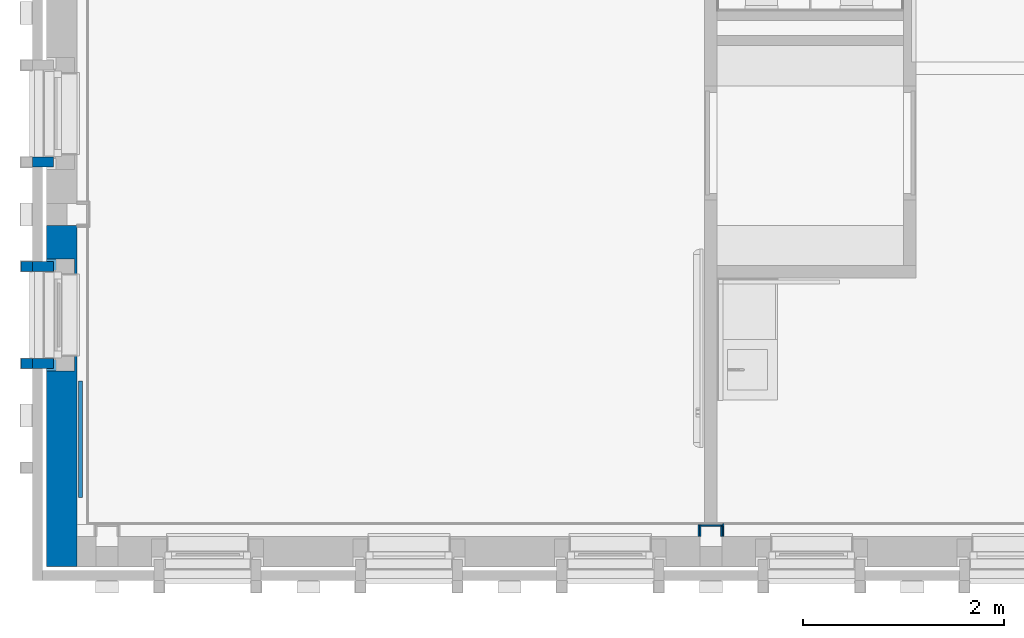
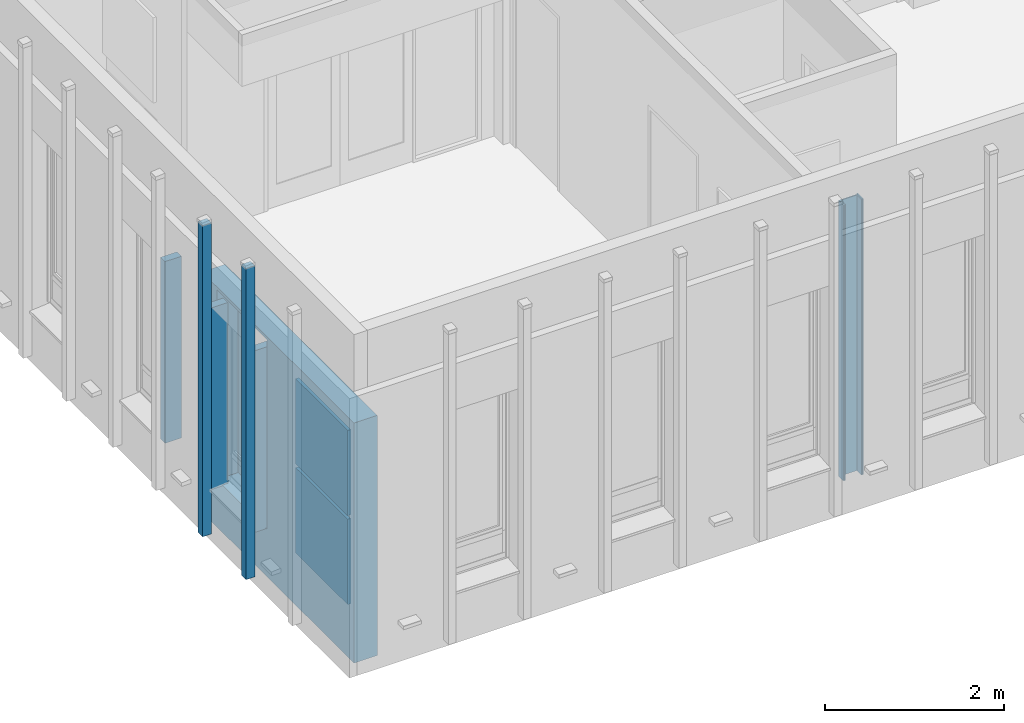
# One storey, part 26 of 118: 13 walls, 11 openings.
"""IFC2X3 building model written with IfcOpenShell, lengths in millimetres."""

from ifc_helpers import new_model, entity, si_unit, converted_unit, derived_unit, direction, frame, frame_2d, origin, place, context, subcontext, project, spatial, rectangle, extrude, faceted_brep, material, layer, layer_set, layer_usage, type_object, element, save


model = new_model("IFC2X3")

# Units and contexts
model_context = context("Model", 3, precision=0.01, world=origin(), true_north=direction((6.123031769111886e-17, 1.0)))
plan_context = context("Plan", 3, precision=0.01, world=origin(), true_north=direction((6.123031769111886e-17, 1.0)))
body_context = subcontext(model_context, "Body", "Model", "MODEL_VIEW")
ifc_project = project(units=[si_unit("LENGTHUNIT", "METRE", prefix="MILLI"), si_unit("AREAUNIT", "SQUARE_METRE"), si_unit("VOLUMEUNIT", "CUBIC_METRE"), converted_unit("PLANEANGLEUNIT", "DEGREE", entity("IfcRatioMeasure", 0.017453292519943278), si_unit("PLANEANGLEUNIT", "RADIAN"), dimensions=[0, 0, 0, 0, 0, 0, 0]), si_unit("MASSUNIT", "GRAM", prefix="KILO"), derived_unit("MASSDENSITYUNIT", [(si_unit("MASSUNIT", "GRAM", prefix="KILO"), 1), (si_unit("LENGTHUNIT", "METRE"), -3)]), derived_unit("IONCONCENTRATIONUNIT", [(si_unit("MASSUNIT", "GRAM", prefix="KILO"), 1), (si_unit("LENGTHUNIT", "METRE"), -3)]), derived_unit("MOMENTOFINERTIAUNIT", [(si_unit("LENGTHUNIT", "METRE"), 4)]), si_unit("TIMEUNIT", "SECOND"), si_unit("FREQUENCYUNIT", "HERTZ"), si_unit("THERMODYNAMICTEMPERATUREUNIT", "DEGREE_CELSIUS"), derived_unit("THERMALTRANSMITTANCEUNIT", [(si_unit("MASSUNIT", "GRAM", prefix="KILO"), 1), (si_unit("THERMODYNAMICTEMPERATUREUNIT", "KELVIN"), -1), (si_unit("TIMEUNIT", "SECOND"), -3)]), derived_unit("THERMALCONDUCTANCEUNIT", [(si_unit("MASSUNIT", "GRAM", prefix="KILO"), 1), (si_unit("THERMODYNAMICTEMPERATUREUNIT", "KELVIN"), -1), (si_unit("TIMEUNIT", "SECOND"), -3), (si_unit("LENGTHUNIT", "METRE"), 1)]), derived_unit("VOLUMETRICFLOWRATEUNIT", [(si_unit("LENGTHUNIT", "METRE"), 3), (si_unit("TIMEUNIT", "SECOND"), -1)]), derived_unit("MASSFLOWRATEUNIT", [(si_unit("MASSUNIT", "GRAM", prefix="KILO"), 1), (si_unit("TIMEUNIT", "SECOND"), -1)]), derived_unit("ROTATIONALFREQUENCYUNIT", [(si_unit("TIMEUNIT", "SECOND"), -1)]), si_unit("ELECTRICCURRENTUNIT", "AMPERE"), si_unit("ELECTRICVOLTAGEUNIT", "VOLT"), si_unit("POWERUNIT", "WATT"), si_unit("FORCEUNIT", "NEWTON", prefix="KILO"), si_unit("ILLUMINANCEUNIT", "LUX"), si_unit("LUMINOUSFLUXUNIT", "LUMEN"), si_unit("LUMINOUSINTENSITYUNIT", "CANDELA"), derived_unit("USERDEFINED", [(si_unit("MASSUNIT", "GRAM", prefix="KILO"), -1), (si_unit("LENGTHUNIT", "METRE"), -2), (si_unit("TIMEUNIT", "SECOND"), 3), (si_unit("LUMINOUSFLUXUNIT", "LUMEN"), 1)]), derived_unit("USERDEFINED", [(si_unit("MASSUNIT", "GRAM", prefix="KILO"), 1), (si_unit("TIMEUNIT", "SECOND"), -3), (si_unit("LENGTHUNIT", "METRE"), 3), (si_unit("ELECTRICCURRENTUNIT", "AMPERE"), -2)]), derived_unit("SOUNDPOWERUNIT", [(si_unit("MASSUNIT", "GRAM", prefix="KILO"), 1), (si_unit("TIMEUNIT", "SECOND"), -3), (si_unit("LENGTHUNIT", "METRE"), 2)]), derived_unit("SOUNDPRESSUREUNIT", [(si_unit("MASSUNIT", "GRAM", prefix="KILO"), 1), (si_unit("LENGTHUNIT", "METRE"), -1), (si_unit("TIMEUNIT", "SECOND"), -2)]), derived_unit("LINEARVELOCITYUNIT", [(si_unit("LENGTHUNIT", "METRE"), 1), (si_unit("TIMEUNIT", "SECOND"), -1)]), si_unit("PRESSUREUNIT", "PASCAL"), derived_unit("USERDEFINED", [(si_unit("MASSUNIT", "GRAM", prefix="KILO"), 1), (si_unit("LENGTHUNIT", "METRE"), -2), (si_unit("TIMEUNIT", "SECOND"), -2)]), derived_unit("LINEARFORCEUNIT", [(si_unit("MASSUNIT", "GRAM", prefix="KILO"), 1), (si_unit("TIMEUNIT", "SECOND"), -2)]), derived_unit("PLANARFORCEUNIT", [(si_unit("MASSUNIT", "GRAM", prefix="KILO"), 1), (si_unit("LENGTHUNIT", "METRE"), -1), (si_unit("TIMEUNIT", "SECOND"), -2)]), derived_unit("SPECIFICHEATCAPACITYUNIT", [(si_unit("THERMODYNAMICTEMPERATUREUNIT", "KELVIN"), -1), (si_unit("LENGTHUNIT", "METRE"), 2), (si_unit("TIMEUNIT", "SECOND"), -2)]), derived_unit("HEATINGVALUEUNIT", [(si_unit("LENGTHUNIT", "METRE"), 2), (si_unit("TIMEUNIT", "SECOND"), -2)]), derived_unit("VAPORPERMEABILITYUNIT", [(si_unit("LENGTHUNIT", "METRE"), -1), (si_unit("TIMEUNIT", "SECOND"), 1)]), derived_unit("DYNAMICVISCOSITYUNIT", [(si_unit("MASSUNIT", "GRAM", prefix="KILO"), 1), (si_unit("TIMEUNIT", "SECOND"), -1), (si_unit("LENGTHUNIT", "METRE"), -1)]), derived_unit("THERMALEXPANSIONCOEFFICIENTUNIT", [(si_unit("THERMODYNAMICTEMPERATUREUNIT", "KELVIN"), -1)]), derived_unit("MODULUSOFELASTICITYUNIT", [(si_unit("MASSUNIT", "GRAM", prefix="KILO"), 1), (si_unit("LENGTHUNIT", "METRE"), -1), (si_unit("TIMEUNIT", "SECOND"), -2)]), derived_unit("ISOTHERMALMOISTURECAPACITYUNIT", [(si_unit("LENGTHUNIT", "METRE"), 3), (si_unit("MASSUNIT", "GRAM", prefix="KILO"), -1)]), derived_unit("MOISTUREDIFFUSIVITYUNIT", [(si_unit("TIMEUNIT", "SECOND"), -1), (si_unit("LENGTHUNIT", "METRE"), 2)])], contexts=[model_context, plan_context])

# Site, building, storey
site_placement = place(None, origin())
site = spatial("IfcSite", under=ifc_project, at=site_placement, Name="Locatie", CompositionType="ELEMENT")
building_placement = place(site_placement, origin())
building = spatial("IfcBuilding", under=site, at=building_placement, Name="Bouwwerk", CompositionType="ELEMENT")
storey_placement = place(building_placement, frame((0.0, 0.0, 7800.0)))
storey = spatial("IfcBuildingStorey", under=building, at=storey_placement, Name="02 tweede verdieping", CompositionType="ELEMENT", Elevation=7800.000000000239)

# Wall, openings
ifc_material_1 = material(Name="n7_isolatie_glaswol")
ifc_layer_1 = layer(ifc_material_1, 30.0)
ifc_layer_2 = layer(ifc_material_1, 245.0)
ifc_material_2 = material(Name="i4_multiplex")
ifc_layer_3 = layer(ifc_material_2, 12.0)
ifc_material_3 = material(Name="f7_gipsvezel")
ifc_layer_4 = layer(ifc_material_3, 13.000000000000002)
ifc_layer_set_1 = layer_set([ifc_layer_1, ifc_layer_2, ifc_layer_3, ifc_layer_4], Name="Basic Wall:NLRS_22_WA_HSB bispouw 30-245-12-13 glaswol_gen_ISR")
ifc_layer_usage_1 = layer_usage(ifc_layer_set_1, "AXIS2", "NEGATIVE", 150.0)
wall_type_1 = type_object("IfcWallType", Name="Basic Wall:NLRS_22_WA_HSB bispouw 30-245-12-13 glaswol_gen_ISR", PredefinedType="STANDARD", material=ifc_layer_set_1)
wall_1_placement = place(storey_placement, frame((9850.0, 9700.0, -30.0), z_axis=(0.0, 0.0, 1.0), x_axis=(0.0, 1.0, 0.0)))
wall_1 = element("IfcWallStandardCase", 1, at=wall_1_placement, inside=storey, type_object=wall_type_1, material=ifc_layer_usage_1, Name="Basic Wall:NLRS_22_WA_HSB bispouw 30-245-12-13 glaswol_gen_ISR", ObjectType="Basic Wall:NLRS_22_WA_HSB bispouw 30-245-12-13 glaswol_gen_ISR", context=body_context, shape_type="SweptSolid", body=[
    extrude(rectangle(XDim=3389.9999999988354, YDim=300.0000000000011, at=frame_2d((1694.9999999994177, 0.0), x_axis=(-1.0, 0.0))), origin(), (0.0, 0.0, 1.0), 3266.0000000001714),
])
opening_1_placement = place(wall_1_placement, frame((3944.0, 290.0, 633.0)))
element("IfcOpeningElement", 2, at=opening_1_placement, cuts=wall_1, Name="Basic Wall:NLRS_22_WA_HSB bispouw 30-245-12-13 glaswol_gen_ISR", ObjectType="Opening", context=body_context, shape_type="Brep", body=[
    faceted_brep([(1088.0, -100.0, 2472.0), (1009.0, -100.0, 2472.0), (1009.0, -100.0, 42.0), (103.0, -100.0, 42.0), (103.0, -100.0, 2472.0), (24.0, -100.0, 2472.0), (24.0, -100.0, 0.0), (1088.0, -100.0, 0.0), (24.0, 0.0, 2472.0), (1088.0, 0.0, 2472.0), (1088.0, 0.0, 0.0), (24.0, 0.0, 0.0), (0.0, -415.0, 2594.0), (0.0, -415.0, 11.0), (1112.0, -415.0, 11.0), (1112.0, -415.0, 2594.0), (148.0, -415.0, 2443.0), (964.0, -415.0, 2443.0), (964.0, -415.0, 87.0), (148.0, -415.0, 87.0), (0.0, -140.0, 2594.0), (1112.0, -140.0, 2594.0), (1112.0, -140.0, 11.0), (0.0, -140.0, 11.0), (103.0, -140.0, 42.0), (1009.0, -140.0, 42.0), (1009.0, -140.0, 2508.0), (103.0, -140.0, 2508.0), (1009.0, -100.0, 2508.0), (103.0, -100.0, 2508.0), (148.0, -615.0, 2443.0), (148.0, -615.0, 87.0), (964.0, -615.0, 87.0), (964.0, -615.0, 2443.0)], [[[0, 1, 2, 3, 4, 5, 6, 7]], [[8, 9, 10, 11]], [[5, 8, 11, 6]], [[6, 11, 10, 7]], [[7, 10, 9, 0]], [[8, 5, 4, 1, 0, 9]], [[12, 13, 14, 15], [16, 17, 18, 19]], [[20, 21, 22, 23], [24, 25, 26, 27]], [[12, 20, 23, 13]], [[13, 23, 22, 14]], [[14, 22, 21, 15]], [[15, 21, 20, 12]], [[28, 1, 4, 29]], [[24, 27, 29, 4, 3]], [[3, 2, 25, 24]], [[2, 1, 28, 26, 25]], [[29, 27, 26, 28]], [[30, 31, 32, 33]], [[30, 16, 19, 31]], [[31, 19, 18, 32]], [[32, 18, 17, 33]], [[33, 17, 16, 30]]]),
])
opening_2_placement = place(wall_1_placement, frame((5944.0, 290.0, 633.0)))
element("IfcOpeningElement", 3, at=opening_2_placement, cuts=wall_1, Name="Basic Wall:NLRS_22_WA_HSB bispouw 30-245-12-13 glaswol_gen_ISR", ObjectType="Opening", context=body_context, shape_type="Brep", body=[
    faceted_brep([(1088.0, -100.0, 2472.0), (1009.0, -100.0, 2472.0), (1009.0, -100.0, 42.0), (103.0, -100.0, 42.0), (103.0, -100.0, 2472.0), (24.0, -100.0, 2472.0), (24.0, -100.0, 0.0), (1088.0, -100.0, 0.0), (24.0, 0.0, 2472.0), (1088.0, 0.0, 2472.0), (1088.0, 0.0, 0.0), (24.0, 0.0, 0.0), (0.0, -415.0, 2594.0), (0.0, -415.0, 11.0), (1112.0, -415.0, 11.0), (1112.0, -415.0, 2594.0), (148.0, -415.0, 2443.0), (964.0, -415.0, 2443.0), (964.0, -415.0, 87.0), (148.0, -415.0, 87.0), (0.0, -140.0, 2594.0), (1112.0, -140.0, 2594.0), (1112.0, -140.0, 11.0), (0.0, -140.0, 11.0), (103.0, -140.0, 42.0), (1009.0, -140.0, 42.0), (1009.0, -140.0, 2508.0), (103.0, -140.0, 2508.0), (1009.0, -100.0, 2508.0), (103.0, -100.0, 2508.0), (148.0, -615.0, 2443.0), (148.0, -615.0, 87.0), (964.0, -615.0, 87.0), (964.0, -615.0, 2443.0)], [[[0, 1, 2, 3, 4, 5, 6, 7]], [[8, 9, 10, 11]], [[5, 8, 11, 6]], [[6, 11, 10, 7]], [[7, 10, 9, 0]], [[8, 5, 4, 1, 0, 9]], [[12, 13, 14, 15], [16, 17, 18, 19]], [[20, 21, 22, 23], [24, 25, 26, 27]], [[12, 20, 23, 13]], [[13, 23, 22, 14]], [[14, 22, 21, 15]], [[15, 21, 20, 12]], [[28, 1, 4, 29]], [[24, 27, 29, 4, 3]], [[3, 2, 25, 24]], [[2, 1, 28, 26, 25]], [[29, 27, 26, 28]], [[30, 31, 32, 33]], [[30, 16, 19, 31]], [[31, 19, 18, 32]], [[32, 18, 17, 33]], [[33, 17, 16, 30]]]),
])
opening_3_placement = place(wall_1_placement, frame((7944.0, 290.0, 633.0)))
element("IfcOpeningElement", 4, at=opening_3_placement, cuts=wall_1, Name="Basic Wall:NLRS_22_WA_HSB bispouw 30-245-12-13 glaswol_gen_ISR", ObjectType="Opening", context=body_context, shape_type="Brep", body=[
    faceted_brep([(1088.0, -100.0, 2472.0), (1009.0, -100.0, 2472.0), (1009.0, -100.0, 42.0), (103.0, -100.0, 42.0), (103.0, -100.0, 2472.0), (24.0, -100.0, 2472.0), (24.0, -100.0, 0.0), (1088.0, -100.0, 0.0), (24.0, 0.0, 2472.0), (1088.0, 0.0, 2472.0), (1088.0, 0.0, 0.0), (24.0, 0.0, 0.0), (0.0, -415.0, 2594.0), (0.0, -415.0, 11.0), (1112.0, -415.0, 11.0), (1112.0, -415.0, 2594.0), (148.0, -415.0, 2443.0), (964.0, -415.0, 2443.0), (964.0, -415.0, 87.0), (148.0, -415.0, 87.0), (0.0, -140.0, 2594.0), (1112.0, -140.0, 2594.0), (1112.0, -140.0, 11.0), (0.0, -140.0, 11.0), (103.0, -140.0, 42.0), (1009.0, -140.0, 42.0), (1009.0, -140.0, 2508.0), (103.0, -140.0, 2508.0), (1009.0, -100.0, 2508.0), (103.0, -100.0, 2508.0), (148.0, -615.0, 2443.0), (148.0, -615.0, 87.0), (964.0, -615.0, 87.0), (964.0, -615.0, 2443.0)], [[[0, 1, 2, 3, 4, 5, 6, 7]], [[8, 9, 10, 11]], [[5, 8, 11, 6]], [[6, 11, 10, 7]], [[7, 10, 9, 0]], [[8, 5, 4, 1, 0, 9]], [[12, 13, 14, 15], [16, 17, 18, 19]], [[20, 21, 22, 23], [24, 25, 26, 27]], [[12, 20, 23, 13]], [[13, 23, 22, 14]], [[14, 22, 21, 15]], [[15, 21, 20, 12]], [[28, 1, 4, 29]], [[24, 27, 29, 4, 3]], [[3, 2, 25, 24]], [[2, 1, 28, 26, 25]], [[29, 27, 26, 28]], [[30, 31, 32, 33]], [[30, 16, 19, 31]], [[31, 19, 18, 32]], [[32, 18, 17, 33]], [[33, 17, 16, 30]]]),
])
opening_4_placement = place(wall_1_placement, frame((9944.0, 290.0, 633.0)))
element("IfcOpeningElement", 5, at=opening_4_placement, cuts=wall_1, Name="Basic Wall:NLRS_22_WA_HSB bispouw 30-245-12-13 glaswol_gen_ISR", ObjectType="Opening", context=body_context, shape_type="Brep", body=[
    faceted_brep([(24.0, -100.0, 0.0), (24.0, 0.0, 0.0), (1088.0, 0.0, 0.0), (1088.0, -100.0, 0.0), (0.0, -415.0, 11.0), (0.0, -140.0, 11.0), (1112.0, -140.0, 11.0), (1112.0, -415.0, 11.0), (103.0, -100.0, 42.0), (1009.0, -100.0, 42.0), (1009.0, -140.0, 42.0), (103.0, -140.0, 42.0), (1088.0, -100.0, 2472.0), (1009.0, -100.0, 2472.0), (103.0, -100.0, 2472.0), (24.0, -100.0, 2472.0), (24.0, 0.0, 2472.0), (1088.0, 0.0, 2472.0), (0.0, -415.0, 2594.0), (1112.0, -415.0, 2594.0), (148.0, -415.0, 2443.0), (964.0, -415.0, 2443.0), (964.0, -415.0, 87.0), (148.0, -415.0, 87.0), (0.0, -140.0, 2594.0), (1112.0, -140.0, 2594.0), (1009.0, -140.0, 2508.0), (103.0, -140.0, 2508.0), (1009.0, -100.0, 2508.0), (103.0, -100.0, 2508.0), (148.0, -615.0, 2443.0), (148.0, -615.0, 87.0), (964.0, -615.0, 87.0), (964.0, -615.0, 2443.0)], [[[0, 1, 2, 3]], [[4, 5, 6, 7]], [[8, 9, 10, 11]], [[12, 13, 9, 8, 14, 15, 0, 3]], [[16, 17, 2, 1]], [[15, 16, 1, 0]], [[3, 2, 17, 12]], [[16, 15, 14, 13, 12, 17]], [[18, 4, 7, 19], [20, 21, 22, 23]], [[24, 25, 6, 5], [11, 10, 26, 27]], [[18, 24, 5, 4]], [[7, 6, 25, 19]], [[19, 25, 24, 18]], [[28, 13, 14, 29]], [[11, 27, 29, 14, 8]], [[9, 13, 28, 26, 10]], [[29, 27, 26, 28]], [[30, 31, 32, 33]], [[30, 20, 23, 31]], [[31, 23, 22, 32]], [[32, 22, 21, 33]], [[33, 21, 20, 30]]]),
])
opening_5_placement = place(wall_1_placement, frame((11944.0, 290.0, 633.0)))
element("IfcOpeningElement", 6, at=opening_5_placement, cuts=wall_1, Name="Basic Wall:NLRS_22_WA_HSB bispouw 30-245-12-13 glaswol_gen_ISR", ObjectType="Opening", context=body_context, shape_type="Brep", body=[
    faceted_brep([(24.0, -100.0, 0.0), (24.0, 0.0, 0.0), (1088.0, 0.0, 0.0), (1088.0, -100.0, 0.0), (0.0, -415.0, 11.0), (0.0, -140.0, 11.0), (1112.0, -140.0, 11.0), (1112.0, -415.0, 11.0), (103.0, -100.0, 42.0), (1009.0, -100.0, 42.0), (1009.0, -140.0, 42.0), (103.0, -140.0, 42.0), (1088.0, -100.0, 2472.0), (1009.0, -100.0, 2472.0), (103.0, -100.0, 2472.0), (24.0, -100.0, 2472.0), (24.0, 0.0, 2472.0), (1088.0, 0.0, 2472.0), (0.0, -415.0, 2594.0), (1112.0, -415.0, 2594.0), (148.0, -415.0, 2443.0), (964.0, -415.0, 2443.0), (964.0, -415.0, 87.0), (148.0, -415.0, 87.0), (0.0, -140.0, 2594.0), (1112.0, -140.0, 2594.0), (1009.0, -140.0, 2508.0), (103.0, -140.0, 2508.0), (1009.0, -100.0, 2508.0), (103.0, -100.0, 2508.0), (148.0, -615.0, 2443.0), (148.0, -615.0, 87.0), (964.0, -615.0, 87.0), (964.0, -615.0, 2443.0)], [[[0, 1, 2, 3]], [[4, 5, 6, 7]], [[8, 9, 10, 11]], [[12, 13, 9, 8, 14, 15, 0, 3]], [[16, 17, 2, 1]], [[15, 16, 1, 0]], [[3, 2, 17, 12]], [[16, 15, 14, 13, 12, 17]], [[18, 4, 7, 19], [20, 21, 22, 23]], [[24, 25, 6, 5], [11, 10, 26, 27]], [[18, 24, 5, 4]], [[7, 6, 25, 19]], [[19, 25, 24, 18]], [[28, 13, 14, 29]], [[11, 27, 29, 14, 8]], [[9, 13, 28, 26, 10]], [[29, 27, 26, 28]], [[30, 31, 32, 33]], [[30, 20, 23, 31]], [[31, 23, 22, 32]], [[32, 22, 21, 33]], [[33, 21, 20, 30]]]),
])
opening_6_placement = place(wall_1_placement, frame((13944.0, 290.0, 633.0)))
element("IfcOpeningElement", 7, at=opening_6_placement, cuts=wall_1, Name="Basic Wall:NLRS_22_WA_HSB bispouw 30-245-12-13 glaswol_gen_ISR", ObjectType="Opening", context=body_context, shape_type="Brep", body=[
    faceted_brep([(1088.0, -100.0, 2472.0), (1009.0, -100.0, 2472.0), (1009.0, -100.0, 42.0), (103.0, -100.0, 42.0), (103.0, -100.0, 2472.0), (24.0, -100.0, 2472.0), (24.0, -100.0, 0.0), (1088.0, -100.0, 0.0), (24.0, 0.0, 2472.0), (1088.0, 0.0, 2472.0), (1088.0, 0.0, 0.0), (24.0, 0.0, 0.0), (0.0, -415.0, 2594.0), (0.0, -415.0, 11.0), (1112.0, -415.0, 11.0), (1112.0, -415.0, 2594.0), (148.0, -415.0, 2443.0), (964.0, -415.0, 2443.0), (964.0, -415.0, 87.0), (148.0, -415.0, 87.0), (0.0, -140.0, 2594.0), (1112.0, -140.0, 2594.0), (1112.0, -140.0, 11.0), (0.0, -140.0, 11.0), (103.0, -140.0, 42.0), (1009.0, -140.0, 42.0), (1009.0, -140.0, 2508.0), (103.0, -140.0, 2508.0), (1009.0, -100.0, 2508.0), (103.0, -100.0, 2508.0), (148.0, -615.0, 2443.0), (148.0, -615.0, 87.0), (964.0, -615.0, 87.0), (964.0, -615.0, 2443.0)], [[[0, 1, 2, 3, 4, 5, 6, 7]], [[8, 9, 10, 11]], [[5, 8, 11, 6]], [[6, 11, 10, 7]], [[7, 10, 9, 0]], [[8, 5, 4, 1, 0, 9]], [[12, 13, 14, 15], [16, 17, 18, 19]], [[20, 21, 22, 23], [24, 25, 26, 27]], [[12, 20, 23, 13]], [[13, 23, 22, 14]], [[14, 22, 21, 15]], [[15, 21, 20, 12]], [[28, 1, 4, 29]], [[24, 27, 29, 4, 3]], [[3, 2, 25, 24]], [[2, 1, 28, 26, 25]], [[29, 27, 26, 28]], [[30, 31, 32, 33]], [[30, 16, 19, 31]], [[31, 19, 18, 32]], [[32, 18, 17, 33]], [[33, 17, 16, 30]]]),
])
opening_7_placement = place(wall_1_placement, frame((15944.0, 290.0, 633.0)))
element("IfcOpeningElement", 8, at=opening_7_placement, cuts=wall_1, Name="Basic Wall:NLRS_22_WA_HSB bispouw 30-245-12-13 glaswol_gen_ISR", ObjectType="Opening", context=body_context, shape_type="Brep", body=[
    faceted_brep([(1088.0, -100.0, 2472.0), (1009.0, -100.0, 2472.0), (1009.0, -100.0, 42.0), (103.0, -100.0, 42.0), (103.0, -100.0, 2472.0), (24.0, -100.0, 2472.0), (24.0, -100.0, 0.0), (1088.0, -100.0, 0.0), (24.0, 0.0, 2472.0), (1088.0, 0.0, 2472.0), (1088.0, 0.0, 0.0), (24.0, 0.0, 0.0), (0.0, -415.0, 2594.0), (0.0, -415.0, 11.0), (1112.0, -415.0, 11.0), (1112.0, -415.0, 2594.0), (148.0, -415.0, 2443.0), (964.0, -415.0, 2443.0), (964.0, -415.0, 87.0), (148.0, -415.0, 87.0), (0.0, -140.0, 2594.0), (1112.0, -140.0, 2594.0), (1112.0, -140.0, 11.0), (0.0, -140.0, 11.0), (103.0, -140.0, 42.0), (1009.0, -140.0, 42.0), (1009.0, -140.0, 2508.0), (103.0, -140.0, 2508.0), (1009.0, -100.0, 2508.0), (103.0, -100.0, 2508.0), (148.0, -615.0, 2443.0), (148.0, -615.0, 87.0), (964.0, -615.0, 87.0), (964.0, -615.0, 2443.0)], [[[0, 1, 2, 3, 4, 5, 6, 7]], [[8, 9, 10, 11]], [[5, 8, 11, 6]], [[6, 11, 10, 7]], [[7, 10, 9, 0]], [[8, 5, 4, 1, 0, 9]], [[12, 13, 14, 15], [16, 17, 18, 19]], [[20, 21, 22, 23], [24, 25, 26, 27]], [[12, 20, 23, 13]], [[13, 23, 22, 14]], [[14, 22, 21, 15]], [[15, 21, 20, 12]], [[28, 1, 4, 29]], [[24, 27, 29, 4, 3]], [[3, 2, 25, 24]], [[2, 1, 28, 26, 25]], [[29, 27, 26, 28]], [[30, 31, 32, 33]], [[30, 16, 19, 31]], [[31, 19, 18, 32]], [[32, 18, 17, 33]], [[33, 17, 16, 30]]]),
])
opening_8_placement = place(wall_1_placement, frame((17944.0, 290.0, 633.0)))
element("IfcOpeningElement", 9, at=opening_8_placement, cuts=wall_1, Name="Basic Wall:NLRS_22_WA_HSB bispouw 30-245-12-13 glaswol_gen_ISR", ObjectType="Opening", context=body_context, shape_type="Brep", body=[
    faceted_brep([(1088.0, -100.0, 2472.0), (1009.0, -100.0, 2472.0), (1009.0, -100.0, 42.0), (103.0, -100.0, 42.0), (103.0, -100.0, 2472.0), (24.0, -100.0, 2472.0), (24.0, -100.0, 0.0), (1088.0, -100.0, 0.0), (24.0, 0.0, 2472.0), (1088.0, 0.0, 2472.0), (1088.0, 0.0, 0.0), (24.0, 0.0, 0.0), (0.0, -415.0, 2594.0), (0.0, -415.0, 11.0), (1112.0, -415.0, 11.0), (1112.0, -415.0, 2594.0), (148.0, -415.0, 2443.0), (964.0, -415.0, 2443.0), (964.0, -415.0, 87.0), (148.0, -415.0, 87.0), (0.0, -140.0, 2594.0), (1112.0, -140.0, 2594.0), (1112.0, -140.0, 11.0), (0.0, -140.0, 11.0), (103.0, -140.0, 42.0), (1009.0, -140.0, 42.0), (1009.0, -140.0, 2508.0), (103.0, -140.0, 2508.0), (1009.0, -100.0, 2508.0), (103.0, -100.0, 2508.0), (148.0, -615.0, 2443.0), (148.0, -615.0, 87.0), (964.0, -615.0, 87.0), (964.0, -615.0, 2443.0)], [[[0, 1, 2, 3, 4, 5, 6, 7]], [[8, 9, 10, 11]], [[5, 8, 11, 6]], [[6, 11, 10, 7]], [[7, 10, 9, 0]], [[8, 5, 4, 1, 0, 9]], [[12, 13, 14, 15], [16, 17, 18, 19]], [[20, 21, 22, 23], [24, 25, 26, 27]], [[12, 20, 23, 13]], [[13, 23, 22, 14]], [[14, 22, 21, 15]], [[15, 21, 20, 12]], [[28, 1, 4, 29]], [[24, 27, 29, 4, 3]], [[3, 2, 25, 24]], [[2, 1, 28, 26, 25]], [[29, 27, 26, 28]], [[30, 31, 32, 33]], [[30, 16, 19, 31]], [[31, 19, 18, 32]], [[32, 18, 17, 33]], [[33, 17, 16, 30]]]),
])
opening_9_placement = place(wall_1_placement, frame((19944.0, 290.0, 633.0)))
element("IfcOpeningElement", 10, at=opening_9_placement, cuts=wall_1, Name="Basic Wall:NLRS_22_WA_HSB bispouw 30-245-12-13 glaswol_gen_ISR", ObjectType="Opening", context=body_context, shape_type="Brep", body=[
    faceted_brep([(1088.0, -100.0, 2472.0), (1009.0, -100.0, 2472.0), (1009.0, -100.0, 42.0), (103.0, -100.0, 42.0), (103.0, -100.0, 2472.0), (24.0, -100.0, 2472.0), (24.0, -100.0, 0.0), (1088.0, -100.0, 0.0), (24.0, 0.0, 2472.0), (1088.0, 0.0, 2472.0), (1088.0, 0.0, 0.0), (24.0, 0.0, 0.0), (0.0, -415.0, 2594.0), (0.0, -415.0, 11.0), (1112.0, -415.0, 11.0), (1112.0, -415.0, 2594.0), (148.0, -415.0, 2443.0), (964.0, -415.0, 2443.0), (964.0, -415.0, 87.0), (148.0, -415.0, 87.0), (0.0, -140.0, 2594.0), (1112.0, -140.0, 2594.0), (1112.0, -140.0, 11.0), (0.0, -140.0, 11.0), (103.0, -140.0, 42.0), (1009.0, -140.0, 42.0), (1009.0, -140.0, 2508.0), (103.0, -140.0, 2508.0), (1009.0, -100.0, 2508.0), (103.0, -100.0, 2508.0), (148.0, -615.0, 2443.0), (148.0, -615.0, 87.0), (964.0, -615.0, 87.0), (964.0, -615.0, 2443.0)], [[[0, 1, 2, 3, 4, 5, 6, 7]], [[8, 9, 10, 11]], [[5, 8, 11, 6]], [[6, 11, 10, 7]], [[7, 10, 9, 0]], [[8, 5, 4, 1, 0, 9]], [[12, 13, 14, 15], [16, 17, 18, 19]], [[20, 21, 22, 23], [24, 25, 26, 27]], [[12, 20, 23, 13]], [[13, 23, 22, 14]], [[14, 22, 21, 15]], [[15, 21, 20, 12]], [[28, 1, 4, 29]], [[24, 27, 29, 4, 3]], [[3, 2, 25, 24]], [[2, 1, 28, 26, 25]], [[29, 27, 26, 28]], [[30, 31, 32, 33]], [[30, 16, 19, 31]], [[31, 19, 18, 32]], [[32, 18, 17, 33]], [[33, 17, 16, 30]]]),
])
opening_10_placement = place(wall_1_placement, frame((21944.0, 290.0, 633.0)))
element("IfcOpeningElement", 11, at=opening_10_placement, cuts=wall_1, Name="Basic Wall:NLRS_22_WA_HSB bispouw 30-245-12-13 glaswol_gen_ISR", ObjectType="Opening", context=body_context, shape_type="Brep", body=[
    faceted_brep([(1088.0, -100.0, 2472.0), (1009.0, -100.0, 2472.0), (1009.0, -100.0, 42.0), (103.0, -100.0, 42.0), (103.0, -100.0, 2472.0), (24.0, -100.0, 2472.0), (24.0, -100.0, 0.0), (1088.0, -100.0, 0.0), (24.0, 0.0, 2472.0), (1088.0, 0.0, 2472.0), (1088.0, 0.0, 0.0), (24.0, 0.0, 0.0), (0.0, -415.0, 2594.0), (0.0, -415.0, 11.0), (1112.0, -415.0, 11.0), (1112.0, -415.0, 2594.0), (148.0, -415.0, 2443.0), (964.0, -415.0, 2443.0), (964.0, -415.0, 87.0), (148.0, -415.0, 87.0), (0.0, -140.0, 2594.0), (1112.0, -140.0, 2594.0), (1112.0, -140.0, 11.0), (0.0, -140.0, 11.0), (103.0, -140.0, 42.0), (1009.0, -140.0, 42.0), (1009.0, -140.0, 2508.0), (103.0, -140.0, 2508.0), (1009.0, -100.0, 2508.0), (103.0, -100.0, 2508.0), (148.0, -615.0, 2443.0), (148.0, -615.0, 87.0), (964.0, -615.0, 87.0), (964.0, -615.0, 2443.0)], [[[0, 1, 2, 3, 4, 5, 6, 7]], [[8, 9, 10, 11]], [[5, 8, 11, 6]], [[6, 11, 10, 7]], [[7, 10, 9, 0]], [[8, 5, 4, 1, 0, 9]], [[12, 13, 14, 15], [16, 17, 18, 19]], [[20, 21, 22, 23], [24, 25, 26, 27]], [[12, 20, 23, 13]], [[13, 23, 22, 14]], [[14, 22, 21, 15]], [[15, 21, 20, 12]], [[28, 1, 4, 29]], [[24, 27, 29, 4, 3]], [[3, 2, 25, 24]], [[2, 1, 28, 26, 25]], [[29, 27, 26, 28]], [[30, 31, 32, 33]], [[30, 16, 19, 31]], [[31, 19, 18, 32]], [[32, 18, 17, 33]], [[33, 17, 16, 30]]]),
])
opening_11_placement = place(wall_1_placement, frame((1944.0, 290.0, 633.0), z_axis=(0.0, 0.0, 1.0), x_axis=(0.0, -1.0, 0.0)))
element("IfcOpeningElement", 12, at=opening_11_placement, cuts=wall_1, Name="Basic Wall:NLRS_22_WA_HSB bispouw 30-245-12-13 glaswol_gen_ISR", ObjectType="Opening", context=body_context, shape_type="Brep", body=[
    faceted_brep([(100.0, 1088.0, 2472.0), (100.0, 1009.0, 2472.0), (100.0, 1009.0, 42.0), (100.0, 103.0, 42.0), (100.0, 103.0, 2472.0), (100.0, 24.0, 2472.0), (100.0, 24.0, 0.0), (100.0, 1088.0, 0.0), (0.0, 24.0, 2472.0), (0.0, 1088.0, 2472.0), (0.0, 1088.0, 0.0), (0.0, 24.0, 0.0), (415.0, 0.0, 2594.0), (415.0, 0.0, 11.0), (415.0, 1112.0, 11.0), (415.0, 1112.0, 2594.0), (415.0, 148.0, 2443.0), (415.0, 964.0, 2443.0), (415.0, 964.0, 87.0), (415.0, 148.0, 87.0), (140.0, 0.0, 2594.0), (140.0, 1112.0, 2594.0), (140.0, 1112.0, 11.0), (140.0, 0.0, 11.0), (140.0, 103.0, 42.0), (140.0, 1009.0, 42.0), (140.0, 1009.0, 2508.0), (140.0, 103.0, 2508.0), (100.0, 1009.0, 2508.0), (100.0, 103.0, 2508.0), (615.0, 148.0, 2443.0), (615.0, 148.0, 87.0), (615.0, 964.0, 87.0), (615.0, 964.0, 2443.0)], [[[0, 1, 2, 3, 4, 5, 6, 7]], [[8, 9, 10, 11]], [[5, 8, 11, 6]], [[6, 11, 10, 7]], [[7, 10, 9, 0]], [[8, 5, 4, 1, 0, 9]], [[12, 13, 14, 15], [16, 17, 18, 19]], [[20, 21, 22, 23], [24, 25, 26, 27]], [[12, 20, 23, 13]], [[13, 23, 22, 14]], [[14, 22, 21, 15]], [[15, 21, 20, 12]], [[28, 1, 4, 29]], [[3, 2, 25, 24]], [[29, 27, 26, 28]], [[30, 31, 32, 33]], [[30, 16, 19, 31]], [[31, 19, 18, 32]], [[32, 18, 17, 33]], [[33, 17, 16, 30]], [[24, 27, 29, 4, 3]], [[2, 1, 28, 26, 25]]]),
])

# Walls
ifc_material_4 = material(Name="g2_metselwerk_geel licht")
ifc_layer_5 = layer(ifc_material_4, 100.0)
ifc_layer_set_2 = layer_set([ifc_layer_5], Name="Basic Wall:21_WA_metselwerk_licht_100_gen_bdg")
ifc_layer_usage_2 = layer_usage(ifc_layer_set_2, "AXIS2", "NEGATIVE", 50.0)
wall_type_2 = type_object("IfcWallType", Name="Basic Wall:21_WA_metselwerk_licht_100_gen_bdg", PredefinedType="STANDARD", material=ifc_layer_set_2)
wall_2_placement = place(storey_placement, frame((9770.0, 12682.0, 603.0), z_axis=(0.0, 0.0, 1.0), x_axis=(-1.0, 0.0, 0.0)))
element("IfcWallStandardCase", 13, at=wall_2_placement, inside=storey, type_object=wall_type_2, material=ifc_layer_usage_2, Name="Basic Wall:21_WA_metselwerk_licht_100_gen_bdg", ObjectType="Basic Wall:21_WA_metselwerk_licht_100_gen_bdg", context=body_context, shape_type="SweptSolid", body=[
    extrude(rectangle(XDim=210.00000000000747, YDim=99.99999999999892, at=frame_2d((105.00000000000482, 6.181721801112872e-13), x_axis=(-1.0, 0.0))), origin(), (0.0, 0.0, 1.0), 2471.999999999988),
])
wall_3_placement = place(storey_placement, frame((9560.0, 12682.0, 0.0), z_axis=(0.0, 0.0, 1.0), x_axis=(-1.0, 0.0, 0.0)))
element("IfcWallStandardCase", 14, at=wall_3_placement, inside=storey, type_object=wall_type_2, material=ifc_layer_usage_2, Name="Basic Wall:21_WA_metselwerk_licht_100_gen_bdg", ObjectType="Basic Wall:21_WA_metselwerk_licht_100_gen_bdg", context=body_context, shape_type="SweptSolid", body=[
    extrude(rectangle(XDim=114.99999999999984, YDim=99.99999999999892, at=frame_2d((57.49999999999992, -9.201528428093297e-13), x_axis=(-1.0, 0.0))), origin(), (0.0, 0.0, 1.0), 4232.000000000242),
])
ifc_layer_usage_3 = layer_usage(ifc_layer_set_2, "AXIS2", "POSITIVE", -50.0)
wall_4_placement = place(storey_placement, frame((9770.0, 11718.0, 603.0), z_axis=(0.0, 0.0, 1.0), x_axis=(-1.0, 0.0, 0.0)))
element("IfcWallStandardCase", 15, at=wall_4_placement, inside=storey, type_object=wall_type_2, material=ifc_layer_usage_3, Name="Basic Wall:21_WA_metselwerk_licht_100_gen_bdg", ObjectType="Basic Wall:21_WA_metselwerk_licht_100_gen_bdg", context=body_context, shape_type="SweptSolid", body=[
    extrude(rectangle(XDim=210.00000000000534, YDim=99.99999999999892, at=frame_2d((105.00000000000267, -6.394884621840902e-14), x_axis=(-1.0, 0.0))), origin(), (0.0, 0.0, 1.0), 2471.999999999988),
])
wall_5_placement = place(storey_placement, frame((9560.0, 11718.0, 0.0), z_axis=(0.0, 0.0, 1.0), x_axis=(-1.0, 0.0, 0.0)))
element("IfcWallStandardCase", 16, at=wall_5_placement, inside=storey, type_object=wall_type_2, material=ifc_layer_usage_3, Name="Basic Wall:21_WA_metselwerk_licht_100_gen_bdg", ObjectType="Basic Wall:21_WA_metselwerk_licht_100_gen_bdg", context=body_context, shape_type="SweptSolid", body=[
    extrude(rectangle(XDim=114.99999999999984, YDim=99.99999999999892, at=frame_2d((57.49999999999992, -9.201528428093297e-13), x_axis=(-1.0, 0.0))), origin(), (0.0, 0.0, 1.0), 4231.99999999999),
])
wall_6_placement = place(storey_placement, frame((9770.0, 13718.0, 603.0), z_axis=(0.0, 0.0, 1.0), x_axis=(-1.0, 0.0, 0.0)))
element("IfcWallStandardCase", 17, at=wall_6_placement, inside=storey, type_object=wall_type_2, material=ifc_layer_usage_3, Name="Basic Wall:21_WA_metselwerk_licht_100_gen_bdg", ObjectType="Basic Wall:21_WA_metselwerk_licht_100_gen_bdg", context=body_context, shape_type="SweptSolid", body=[
    extrude(rectangle(XDim=210.00000000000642, YDim=99.99999999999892, at=frame_2d((105.00000000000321, -6.394884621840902e-14), x_axis=(-1.0, 0.0))), origin(), (0.0, 0.0, 1.0), 2471.999999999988),
])
ifc_layer_6 = layer(ifc_material_3, 13.000000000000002)
ifc_layer_set_3 = layer_set([ifc_layer_6], Name="Basic Wall:NLRS_41_WA_gips 13_gen_ISR")
ifc_layer_usage_4 = layer_usage(ifc_layer_set_3, "AXIS2", "NEGATIVE", 6.500000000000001)
wall_type_3 = type_object("IfcWallType", Name="Basic Wall:NLRS_41_WA_gips 13_gen_ISR", PredefinedType="STANDARD", material=ifc_layer_set_3)
wall_7_placement = place(storey_placement, frame((16421.499999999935, 10128.0, 0.0), z_axis=(0.0, 0.0, 1.0), x_axis=(0.0, -1.0, 0.0)))
element("IfcWallStandardCase", 18, at=wall_7_placement, inside=storey, type_object=wall_type_3, material=ifc_layer_usage_4, Name="Basic Wall:NLRS_41_WA_gips 13_gen_ISR", ObjectType="Basic Wall:NLRS_41_WA_gips 13_gen_ISR", context=body_context, shape_type="SweptSolid", body=[
    extrude(rectangle(XDim=128.00000000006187, YDim=13.000000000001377, at=frame_2d((64.00000000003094, 0.0), x_axis=(-1.0, 0.0))), origin(), (0.0, 0.0, 1.0), 3750.000000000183),
])
ifc_layer_usage_5 = layer_usage(ifc_layer_set_3, "AXIS2", "POSITIVE", -6.500000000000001)
wall_8_placement = place(storey_placement, frame((16178.499999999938, 10115.0, 0.0), z_axis=(0.0, 0.0, 1.0), x_axis=(0.0, -1.0, 0.0)))
element("IfcWallStandardCase", 19, at=wall_8_placement, inside=storey, type_object=wall_type_3, material=ifc_layer_usage_5, Name="Basic Wall:NLRS_41_WA_gips 13_gen_ISR", ObjectType="Basic Wall:NLRS_41_WA_gips 13_gen_ISR", context=body_context, shape_type="SweptSolid", body=[
    extrude(rectangle(XDim=115.00000000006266, YDim=13.000000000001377, at=frame_2d((57.50000000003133, 0.0), x_axis=(-1.0, 0.0))), origin(), (0.0, 0.0, 1.0), 3750.000000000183),
])
ifc_material_5 = material(Name="ISR_brandwerende beplating")
ifc_layer_7 = layer(ifc_material_5, 15.0)
ifc_layer_set_4 = layer_set([ifc_layer_7], Name="Basic Wall:NLRS_41_WA_brandwerende beplating 15_gen_ISR")
ifc_layer_usage_6 = layer_usage(ifc_layer_set_4, "AXIS2", "NEGATIVE", 7.5)
wall_type_4 = type_object("IfcWallType", Name="Basic Wall:NLRS_41_WA_brandwerende beplating 15_gen_ISR", PredefinedType="STANDARD", material=ifc_layer_set_4)
wall_9_placement = place(storey_placement, frame((16192.49999999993, 10000.0, 0.0), z_axis=(0.0, 0.0, 1.0), x_axis=(0.0, 1.0, 0.0)))
element("IfcWallStandardCase", 20, at=wall_9_placement, inside=storey, type_object=wall_type_4, material=ifc_layer_usage_6, Name="Basic Wall:NLRS_41_WA_brandwerende beplating 15_gen_ISR", ObjectType="Basic Wall:NLRS_41_WA_brandwerende beplating 15_gen_ISR", context=body_context, shape_type="SweptSolid", body=[
    extrude(rectangle(XDim=114.99999999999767, YDim=15.000000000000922, at=frame_2d((57.499999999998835, 3.388400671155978e-13), x_axis=(-1.0, 0.0))), origin(), (0.0, 0.0, 1.0), 3750.000000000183),
])
wall_10_placement = place(storey_placement, frame((16200.0, 10107.500000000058, 0.0)))
element("IfcWallStandardCase", 21, at=wall_10_placement, inside=storey, type_object=wall_type_4, material=ifc_layer_usage_6, Name="Basic Wall:NLRS_41_WA_brandwerende beplating 15_gen_ISR", ObjectType="Basic Wall:NLRS_41_WA_brandwerende beplating 15_gen_ISR", context=body_context, shape_type="SweptSolid", body=[
    extrude(rectangle(XDim=215.00000000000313, YDim=15.000000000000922, at=frame_2d((107.50000000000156, -4.489741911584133e-13), x_axis=(-1.0, 0.0))), origin(), (0.0, 0.0, 1.0), 3750.000000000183),
])
wall_11_placement = place(storey_placement, frame((16407.499999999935, 10100.0, 0.0), z_axis=(0.0, 0.0, 1.0), x_axis=(0.0, -1.0, 0.0)))
element("IfcWallStandardCase", 22, at=wall_11_placement, inside=storey, type_object=wall_type_4, material=ifc_layer_usage_6, Name="Basic Wall:NLRS_41_WA_brandwerende beplating 15_gen_ISR", ObjectType="Basic Wall:NLRS_41_WA_brandwerende beplating 15_gen_ISR", context=body_context, shape_type="SweptSolid", body=[
    extrude(rectangle(XDim=99.99999999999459, YDim=15.00000000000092, at=frame_2d((49.99999999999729, 2.948752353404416e-13), x_axis=(-1.0, 0.0))), origin(), (0.0, 0.0, 1.0), 3750.000000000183),
])
ifc_material_6 = material(Name="f7_binnenwandafwerking")
ifc_layer_8 = layer(ifc_material_6, 1.0)
ifc_material_7 = material(Name="ISR_Luchtspouw")
ifc_layer_9 = layer(ifc_material_7, 39.0)
ifc_layer_set_5 = layer_set([ifc_layer_8, ifc_layer_9], Name="Basic Wall:NLRS_41_WA_akoestische panelen 40_gen_ISR")
ifc_layer_usage_7 = layer_usage(ifc_layer_set_5, "AXIS2", "NEGATIVE", 20.0)
wall_type_5 = type_object("IfcWallType", Name="Basic Wall:NLRS_41_WA_akoestische panelen 40_gen_ISR", PredefinedType="STANDARD", material=ifc_layer_set_5)
for number, where, z_axis, x_axis, name in (
    (23, (10035.0, 11545.0, 1450.0), (0.0, 0.0, 1.0), (0.0, -1.0, 0.0), "Basic Wall:NLRS_41_WA_akoestische panelen 40_gen_ISR"),
    (24, (10035.0, 11545.0, 240.0), (0.0, 0.0, 1.0), (0.0, -1.0, 0.0), "Basic Wall:NLRS_41_WA_akoestische panelen 40_gen_ISR"),
):
    element("IfcWallStandardCase", number, at=place(storey_placement, frame(where, z_axis=z_axis, x_axis=x_axis)), inside=storey, type_object=wall_type_5, material=ifc_layer_usage_7, Name=name, ObjectType="Basic Wall:NLRS_41_WA_akoestische panelen 40_gen_ISR", context=body_context, shape_type="SweptSolid", body=[
        extrude(rectangle(XDim=1160.0000000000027, YDim=39.999999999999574, at=frame_2d((580.0000000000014, 6.910028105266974e-13), x_axis=(-1.0, 0.0))), origin(), (0.0, 0.0, 1.0), 1160.0000000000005),
    ])

save(model, "model.ifc")
